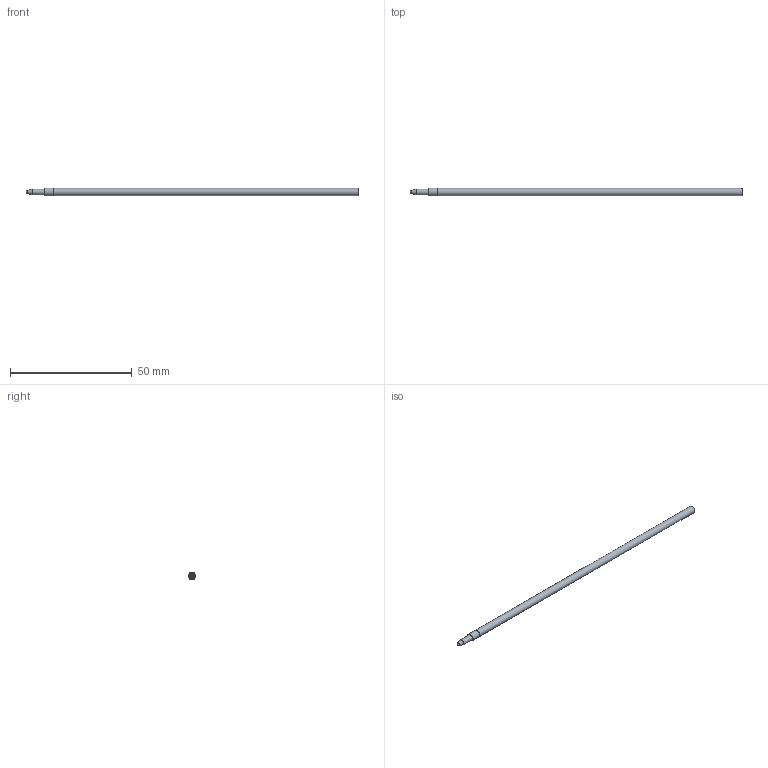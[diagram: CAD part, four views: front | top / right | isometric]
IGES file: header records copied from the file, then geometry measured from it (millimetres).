
Global section: file name: Cartouche pleine ; native system: unknown; preprocessor: unknown; author: unknown; organization: unknown; date: 20160727.143010; units: millimetre
Bounding box: 136.5 x 3.1 x 3.09 mm (x, y, z)
Volume: 940.5 mm3; surface area: 1278.4 mm2
Topology: 1 solids, 1 shells, 9 faces, 22 edges, 16 vertices
Faces by surface type: bspline 9
